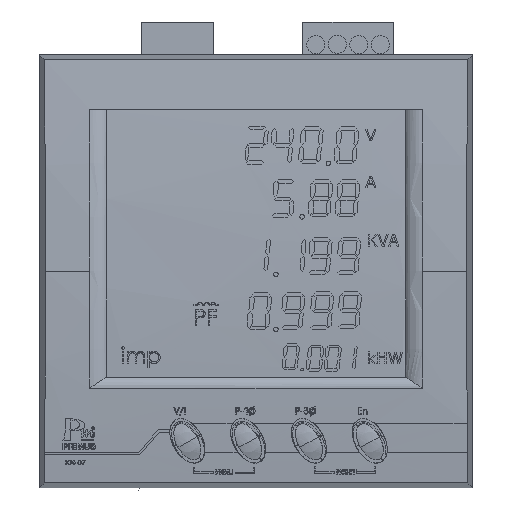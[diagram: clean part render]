
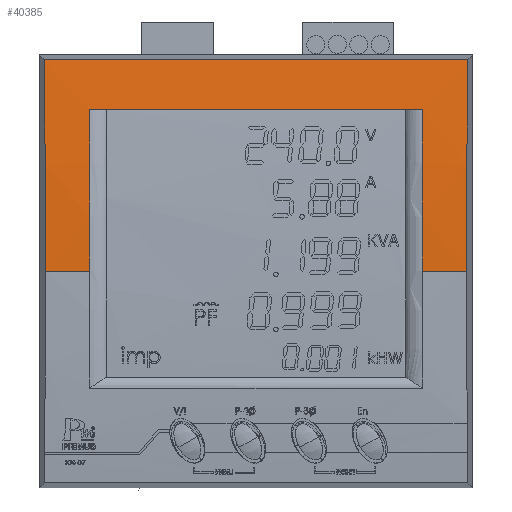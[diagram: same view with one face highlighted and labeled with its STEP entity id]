
A CAD part, top view. The second image highlights one B-rep face of the part: STEP entity #40385.
In plain terms, the highlighted cylindrical face has radius 436.475 mm (diameter 872.95 mm), a partial arc.
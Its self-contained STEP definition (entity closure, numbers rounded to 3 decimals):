
#611 = LINE ( 'NONE', #7149, #65488 ) ;
#1988 = VERTEX_POINT ( 'NONE', #21438 ) ;
#3133 = CARTESIAN_POINT ( 'NONE',  ( 72.296, 79.1, 142.607 ) ) ;
#6060 = VERTEX_POINT ( 'NONE', #42117 ) ;
#7149 = CARTESIAN_POINT ( 'NONE',  ( 144.62, 94.597, 140.941 ) ) ;
#7437 = DIRECTION ( 'NONE',  ( -1., 0., 0. ) ) ;
#8475 = ORIENTED_EDGE ( 'NONE', *, *, #91810, .F. ) ;
#9484 = CARTESIAN_POINT ( 'NONE',  ( 72.208, 47.948, 143.441 ) ) ;
#10523 =( BOUNDED_CURVE ( )  B_SPLINE_CURVE ( 3, ( #31994, #3133, #39001, #39911 ),
 .UNSPECIFIED., .F., .T. ) 
 B_SPLINE_CURVE_WITH_KNOTS ( ( 4, 4 ),
 ( 6.176, 6.283 ),
 .UNSPECIFIED. ) 
 CURVE ( )  GEOMETRIC_REPRESENTATION_ITEM ( )  RATIONAL_B_SPLINE_CURVE ( ( 1., 0.999, 0.999, 1. ) ) 
 REPRESENTATION_ITEM ( '' )  );
#10590 = EDGE_LOOP ( 'NONE', ( #82305, #70527, #32459, #8475, #30790, #11337, #74999, #77950 ) ) ;
#10902 = CARTESIAN_POINT ( 'NONE',  ( 62.438, 47.948, 143.441 ) ) ;
#11337 = ORIENTED_EDGE ( 'NONE', *, *, #32966, .T. ) ;
#11529 = CARTESIAN_POINT ( 'NONE',  ( 144.62, 83.597, 141.983 ) ) ;
#12857 = DIRECTION ( 'NONE',  ( 0., 0., 1. ) ) ;
#16984 = CARTESIAN_POINT ( 'NONE',  ( 144.62, 47.948, 143.441 ) ) ;
#17915 = EDGE_CURVE ( 'NONE', #39310, #49635, #30566, .T. ) ;
#20504 = EDGE_CURVE ( 'NONE', #6060, #39310, #39475, .T. ) ;
#21438 = CARTESIAN_POINT ( 'NONE',  ( -10.794, 47.948, 143.441 ) ) ;
#22128 = EDGE_CURVE ( 'NONE', #1988, #90830, #59801, .T. ) ;
#22778 = VECTOR ( 'NONE', #74844, 1000. ) ;
#22845 = DIRECTION ( 'NONE',  ( 0., -1., 0. ) ) ;
#23151 = VERTEX_POINT ( 'NONE', #70016 ) ;
#23433 = AXIS2_PLACEMENT_3D ( 'NONE', #64230, #7437, #71230 ) ;
#28227 = FACE_OUTER_BOUND ( 'NONE', #10590, .T. ) ;
#28947 = EDGE_CURVE ( 'NONE', #71979, #49635, #86620, .T. ) ;
#30566 = CIRCLE ( 'NONE', #70709, 436.475 ) ;
#30790 = ORIENTED_EDGE ( 'NONE', *, *, #22128, .F. ) ;
#30870 = CARTESIAN_POINT ( 'NONE',  ( -20.564, 47.948, 143.441 ) ) ;
#31994 = CARTESIAN_POINT ( 'NONE',  ( 72.471, 94.597, 140.941 ) ) ;
#32459 = ORIENTED_EDGE ( 'NONE', *, *, #36420, .T. ) ;
#32966 = EDGE_CURVE ( 'NONE', #1988, #6060, #71036, .T. ) ;
#33799 = VECTOR ( 'NONE', #61178, 1000. ) ;
#35565 = DIRECTION ( 'NONE',  ( -1., 0., 0. ) ) ;
#36420 = EDGE_CURVE ( 'NONE', #37109, #23151, #611, .T. ) ;
#36842 = CARTESIAN_POINT ( 'NONE',  ( 144.62, 47.948, 143.441 ) ) ;
#37105 = CARTESIAN_POINT ( 'NONE',  ( -20.564, 63.535, 143.441 ) ) ;
#37109 = VERTEX_POINT ( 'NONE', #68906 ) ;
#39001 = CARTESIAN_POINT ( 'NONE',  ( 72.208, 63.535, 143.441 ) ) ;
#39310 = VERTEX_POINT ( 'NONE', #78922 ) ;
#39475 = LINE ( 'NONE', #11529, #22778 ) ;
#39911 = CARTESIAN_POINT ( 'NONE',  ( 72.208, 47.948, 143.441 ) ) ;
#40385 = ADVANCED_FACE ( 'NONE', ( #28227 ), #84974, .T. ) ;
#40802 = DIRECTION ( 'NONE',  ( -1., 0., 0. ) ) ;
#42117 = CARTESIAN_POINT ( 'NONE',  ( -10.794, 83.597, 141.983 ) ) ;
#42707 = CARTESIAN_POINT ( 'NONE',  ( -20.564, 47.948, 143.441 ) ) ;
#44250 = VECTOR ( 'NONE', #65241, 1000. ) ;
#49635 = VERTEX_POINT ( 'NONE', #10902 ) ;
#55412 = EDGE_CURVE ( 'NONE', #37109, #71979, #10523, .T. ) ;
#59801 = LINE ( 'NONE', #16984, #33799 ) ;
#60193 = AXIS2_PLACEMENT_3D ( 'NONE', #63593, #40802, #12857 ) ;
#61178 = DIRECTION ( 'NONE',  ( -1., 0., 0. ) ) ;
#63593 = CARTESIAN_POINT ( 'NONE',  ( 144.62, 47.948, -293.034 ) ) ;
#64230 = CARTESIAN_POINT ( 'NONE',  ( -10.794, 47.948, -293.034 ) ) ;
#64296 = CARTESIAN_POINT ( 'NONE',  ( 62.438, 47.948, -293.034 ) ) ;
#65241 = DIRECTION ( 'NONE',  ( -1., 0., 0. ) ) ;
#65488 = VECTOR ( 'NONE', #35565, 1000. ) ;
#65502 = CARTESIAN_POINT ( 'NONE',  ( -20.652, 79.1, 142.607 ) ) ;
#68906 = CARTESIAN_POINT ( 'NONE',  ( 72.471, 94.597, 140.941 ) ) ;
#70016 = CARTESIAN_POINT ( 'NONE',  ( -20.827, 94.597, 140.941 ) ) ;
#70527 = ORIENTED_EDGE ( 'NONE', *, *, #55412, .F. ) ;
#70709 = AXIS2_PLACEMENT_3D ( 'NONE', #64296, #71745, #22845 ) ;
#71036 = CIRCLE ( 'NONE', #23433, 436.475 ) ;
#71109 = CARTESIAN_POINT ( 'NONE',  ( -20.827, 94.597, 140.941 ) ) ;
#71230 = DIRECTION ( 'NONE',  ( 0., 1., 0. ) ) ;
#71745 = DIRECTION ( 'NONE',  ( 1., 0., 0. ) ) ;
#71979 = VERTEX_POINT ( 'NONE', #9484 ) ;
#74844 = DIRECTION ( 'NONE',  ( 1., 0., 0. ) ) ;
#74999 = ORIENTED_EDGE ( 'NONE', *, *, #20504, .T. ) ;
#75754 =( BOUNDED_CURVE ( )  B_SPLINE_CURVE ( 3, ( #42707, #37105, #65502, #71109 ),
 .UNSPECIFIED., .F., .T. ) 
 B_SPLINE_CURVE_WITH_KNOTS ( ( 4, 4 ),
 ( 3.142, 3.249 ),
 .UNSPECIFIED. ) 
 CURVE ( )  GEOMETRIC_REPRESENTATION_ITEM ( )  RATIONAL_B_SPLINE_CURVE ( ( 1., 0.999, 0.999, 1. ) ) 
 REPRESENTATION_ITEM ( '' )  );
#77950 = ORIENTED_EDGE ( 'NONE', *, *, #17915, .T. ) ;
#78922 = CARTESIAN_POINT ( 'NONE',  ( 62.438, 83.597, 141.983 ) ) ;
#82305 = ORIENTED_EDGE ( 'NONE', *, *, #28947, .F. ) ;
#84974 = CYLINDRICAL_SURFACE ( 'NONE', #60193, 436.475 ) ;
#86620 = LINE ( 'NONE', #36842, #44250 ) ;
#90830 = VERTEX_POINT ( 'NONE', #30870 ) ;
#91810 = EDGE_CURVE ( 'NONE', #90830, #23151, #75754, .T. ) ;
